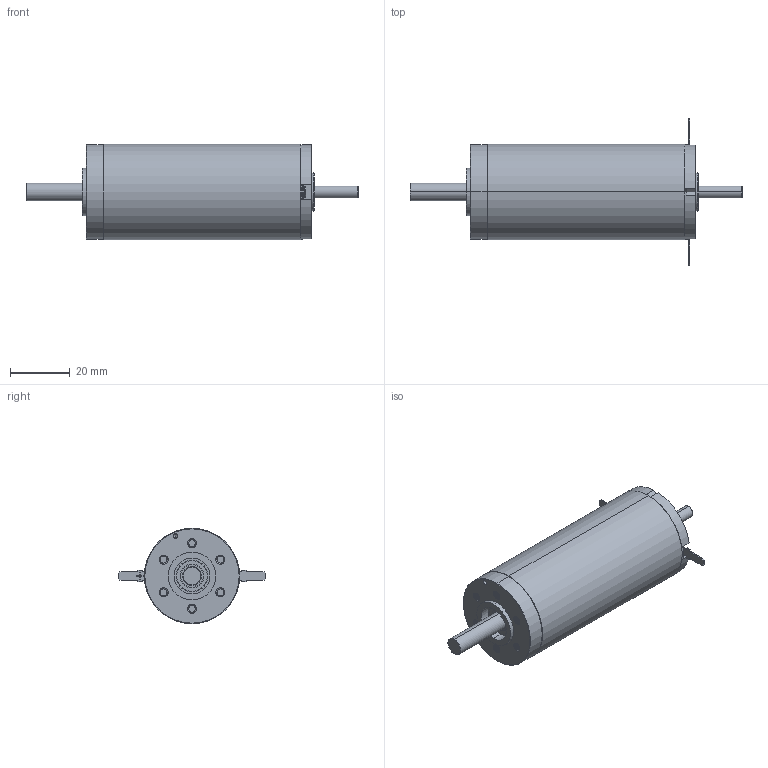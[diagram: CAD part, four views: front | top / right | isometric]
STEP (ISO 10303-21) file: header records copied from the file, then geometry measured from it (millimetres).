
FILE_DESCRIPTION (( 'STEP AP214' ), '1' );
FILE_NAME ('DCX32LG.STEP', '2014-10-15T08:13:02', ( '' ), ( '' ), 'SwSTEP 2.0', 'SolidWorks 2013', '' );
FILE_SCHEMA (( 'AUTOMOTIVE_DESIGN' ));
Length unit declared in the file: millimetre
Products named in the file (18): 11; 9; 8; 15; 3; 6; 10; DCX32LG; 2; 14; 5; 1228610; 4; 12; 13; 1; 16; 7
Assembly tree (17 placements, depth 2):
  DCX32LG
    10
    6
    3
    15
    8
    9
    11
    7
    16
    1
    13
    12
    4
    1228610
    5
    14
    2
Bounding box: 111.35 x 49.3 x 32 mm (x, y, z)
Volume: 50986.1 mm3; surface area: 22061 mm2
Topology: 17 solids, 17 shells, 1289 faces, 2862 edges, 1651 vertices
Faces by surface type: cone 677, cylinder 312, plane 236, bspline 64
Entity records: 53932 total; most frequent: CARTESIAN_POINT 9996, DIRECTION 6635, ORIENTED_EDGE 5708, EDGE_CURVE 2854, AXIS2_PLACEMENT_3D 2613, VERTEX_POINT 1651, LINE 1409, VECTOR 1409
